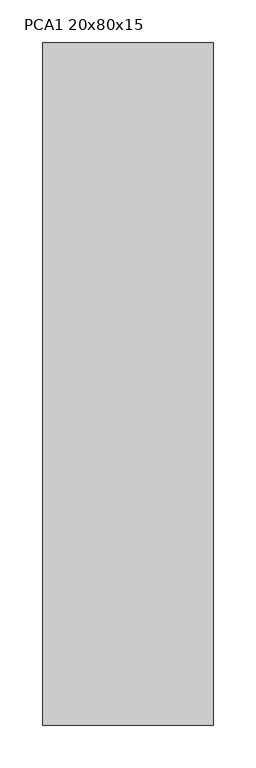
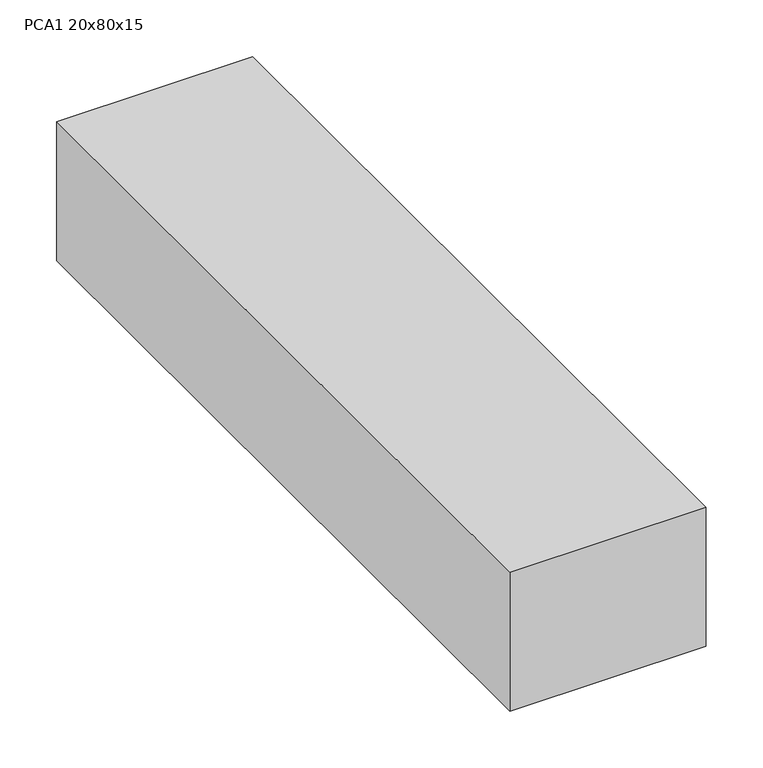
"""IFC4 building model written with IfcOpenShell, lengths in millimetres: proxy geometry, TABLERO ELECTRICO DE SUPERFICIE : PCA1 20x80x15."""

from ifc_helpers import new_model, si_unit, origin, origin_with_axes, place, context, project, spatial, polyline, outline, extrude, source, transform, mapped, element, save


def pca1_20x80x15_228724ed(model_context):
    return source(origin(), model_context, "Body", "SweptSolid", [
        extrude(outline(polyline([(100.0, 0.0), (100.0, -800.0), (-100.0, -800.0), (-100.0, 0.0), (100.0, 0.0)])), origin_with_axes(), (0.0, 0.0, 1.0), 150.0),
    ])


if __name__ == "__main__":
    model = new_model("IFC4")
    model_context = context("Model", 3, world=origin())
    ifc_project = project(units=[si_unit("LENGTHUNIT", "METRE", prefix="MILLI")], contexts=[model_context])
    site = spatial("IfcSite", under=ifc_project)
    building = spatial("IfcBuilding", under=site)
    placement = place(None, origin())
    pca1_20x80x15_shape = pca1_20x80x15_228724ed(model_context)
    element("IfcBuildingElementProxy", 1, Name="TABLERO ELECTRICO DE SUPERFICIE : PCA1 20x80x15", ObjectType="TABLERO ELECTRICO DE SUPERFICIE : PCA1 20x80x15", at=placement, inside=building, context=model_context, shape_type="MappedRepresentation", body=[
        mapped(pca1_20x80x15_shape, transform((0.0, 0.0, 0.0), x_axis=(1.0, 0.0, 0.0), y_axis=(0.0, 1.0, 0.0), z_axis=(0.0, 0.0, 1.0))),
    ])
    save(model, "model.ifc")
